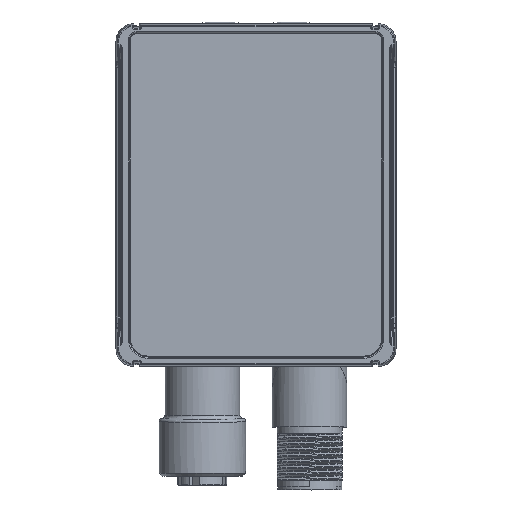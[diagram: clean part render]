
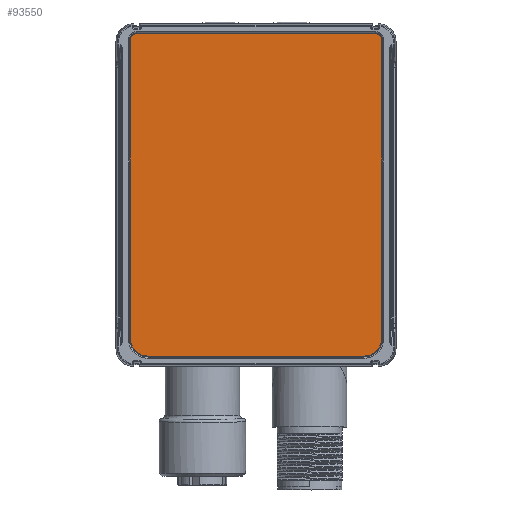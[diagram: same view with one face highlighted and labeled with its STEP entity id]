
A CAD part, top view. The second image highlights one B-rep face of the part: STEP entity #93550.
In plain terms, the highlighted planar face has unit normal (0, 0, 1).
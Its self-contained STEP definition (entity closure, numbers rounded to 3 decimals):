
#32693=DIRECTION('',(-1.,0.,0.));
#32694=VECTOR('',#32693,40.2);
#32695=CARTESIAN_POINT('',(20.1,27.05,37.55));
#32696=LINE('',#32695,#32694);
#32721=DIRECTION('',(0.,1.,0.));
#32722=VECTOR('',#32721,50.1);
#32723=CARTESIAN_POINT('',(21.1,-24.05,37.55));
#32724=LINE('',#32723,#32722);
#32749=DIRECTION('',(1.,0.,0.));
#32750=VECTOR('',#32749,36.2);
#32751=CARTESIAN_POINT('',(-18.1,-27.05,37.55));
#32752=LINE('',#32751,#32750);
#32777=DIRECTION('',(0.,-1.,0.));
#32778=VECTOR('',#32777,50.1);
#32779=CARTESIAN_POINT('',(-21.1,26.05,37.55));
#32780=LINE('',#32779,#32778);
#32784=CARTESIAN_POINT('',(-20.1,26.05,37.55));
#32785=DIRECTION('',(0.,0.,-1.));
#32786=DIRECTION('',(-1.,0.,0.));
#32787=AXIS2_PLACEMENT_3D('',#32784,#32785,#32786);
#32792=CARTESIAN_POINT('',(20.1,26.05,37.55));
#32793=DIRECTION('',(0.,0.,-1.));
#32794=DIRECTION('',(0.,1.,0.));
#32795=AXIS2_PLACEMENT_3D('',#32792,#32793,#32794);
#32800=CARTESIAN_POINT('',(18.1,-24.05,37.55));
#32801=DIRECTION('',(0.,0.,-1.));
#32802=DIRECTION('',(1.,0.,0.));
#32803=AXIS2_PLACEMENT_3D('',#32800,#32801,#32802);
#32808=CARTESIAN_POINT('',(-18.1,-24.05,37.55));
#32809=DIRECTION('',(0.,0.,-1.));
#32810=DIRECTION('',(0.,-1.,0.));
#32811=AXIS2_PLACEMENT_3D('',#32808,#32809,#32810);
#46951=CARTESIAN_POINT('',(-20.1,27.05,37.55));
#46952=VERTEX_POINT('',#46951);
#46953=CARTESIAN_POINT('',(-21.1,26.05,37.55));
#46954=VERTEX_POINT('',#46953);
#46955=CARTESIAN_POINT('',(20.1,27.05,37.55));
#46956=VERTEX_POINT('',#46955);
#46957=CARTESIAN_POINT('',(21.1,26.05,37.55));
#46958=VERTEX_POINT('',#46957);
#46959=CARTESIAN_POINT('',(21.1,-24.05,37.55));
#46960=VERTEX_POINT('',#46959);
#46961=CARTESIAN_POINT('',(18.1,-27.05,37.55));
#46962=VERTEX_POINT('',#46961);
#46963=CARTESIAN_POINT('',(-18.1,-27.05,37.55));
#46964=VERTEX_POINT('',#46963);
#46965=CARTESIAN_POINT('',(-21.1,-24.05,37.55));
#46966=VERTEX_POINT('',#46965);
#93535=CARTESIAN_POINT('',(0.,0.,37.55));
#93536=DIRECTION('',(0.,0.,1.));
#93537=DIRECTION('',(1.,0.,0.));
#93538=AXIS2_PLACEMENT_3D('',#93535,#93536,#93537);
#93539=PLANE('',#93538);
#93540=ORIENTED_EDGE('',*,*,#93431,.T.);
#93541=ORIENTED_EDGE('',*,*,#93446,.F.);
#93542=ORIENTED_EDGE('',*,*,#93460,.T.);
#93543=ORIENTED_EDGE('',*,*,#93474,.F.);
#93544=ORIENTED_EDGE('',*,*,#93488,.T.);
#93545=ORIENTED_EDGE('',*,*,#93502,.F.);
#93546=ORIENTED_EDGE('',*,*,#93516,.T.);
#93547=ORIENTED_EDGE('',*,*,#93529,.F.);
#93548=EDGE_LOOP('',(#93540,#93541,#93542,#93543,#93544,#93545,#93546,#93547));
#93549=FACE_OUTER_BOUND('',#93548,.F.);
#93550=ADVANCED_FACE('',(#93549),#93539,.T.);
#32788=CIRCLE('',#32787,1.);
#32796=CIRCLE('',#32795,1.);
#32804=CIRCLE('',#32803,3.);
#32812=CIRCLE('',#32811,3.);
#93431=EDGE_CURVE('',#46954,#46952,#32788,.T.);
#93446=EDGE_CURVE('',#46956,#46952,#32696,.T.);
#93460=EDGE_CURVE('',#46956,#46958,#32796,.T.);
#93474=EDGE_CURVE('',#46960,#46958,#32724,.T.);
#93488=EDGE_CURVE('',#46960,#46962,#32804,.T.);
#93502=EDGE_CURVE('',#46964,#46962,#32752,.T.);
#93516=EDGE_CURVE('',#46964,#46966,#32812,.T.);
#93529=EDGE_CURVE('',#46954,#46966,#32780,.T.);
